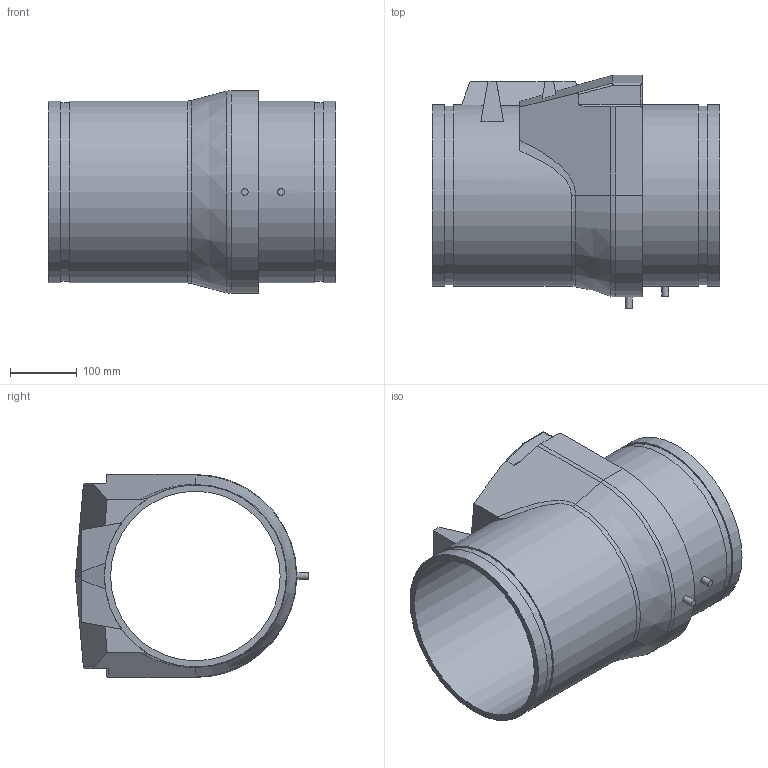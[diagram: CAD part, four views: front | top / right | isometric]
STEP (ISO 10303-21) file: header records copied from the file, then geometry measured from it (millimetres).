
FILE_DESCRIPTION(/* description */ ('VIC FIRELOCK CHECK VALVE SERIES 717','CAx-IF Rec.Pracs.---Representation and Presentation of Product Manufacturing Information (PMI)---4.0---2014-10-13'),/* implementation_level */ '2;1');
FILE_NAME(/* name */ 'C:\Users\Vjadhav\AppData\Roaming\Autodesk\ApplicationPlugins\Back Up\Victaulic_FP-FireLock_Valve Check_Series 717 (OGS)\Victaulic_FP-FireLock_Valve Check_10 (250).stp',/* time_stamp */ '2020-07-17T15:00:47+06:00',/* author */ ('kkamble'),/* organization */ ('Victaulic'),/* preprocessor_version */ 'ST-DEVELOPER v17.2',/* originating_system */ 'Autodesk Inventor 2019',/* authorisation */ '');
FILE_SCHEMA (('AP242_MANAGED_MODEL_BASED_3D_ENGINEERING_MIM_LF { 1 0 10303 442 1 1 4 }'));
Length unit declared in the file: inch
Products named in the file (2): 717-10.0; 717 -10.0
Assembly tree (1 placements, depth 2):
  717-10.0
    717 -10.0
Bounding box: 431.8 x 350.01 x 304.8 mm (x, y, z)
Volume: 6853473 mm3; surface area: 830712 mm2
Topology: 2 solids, 2 shells, 76 faces, 201 edges, 134 vertices
Faces by surface type: plane 46, cylinder 23, torus 4, bspline 2, cone 1
Full cylindrical faces by diameter (mm): 10.16 x2, 254.508 x1, 268.275 x2, 273.05 x4
Entity records: 2652 total; most frequent: CARTESIAN_POINT 535, DIRECTION 429, ORIENTED_EDGE 404, EDGE_CURVE 202, AXIS2_PLACEMENT_3D 154, VERTEX_POINT 136, LINE 121, VECTOR 121
